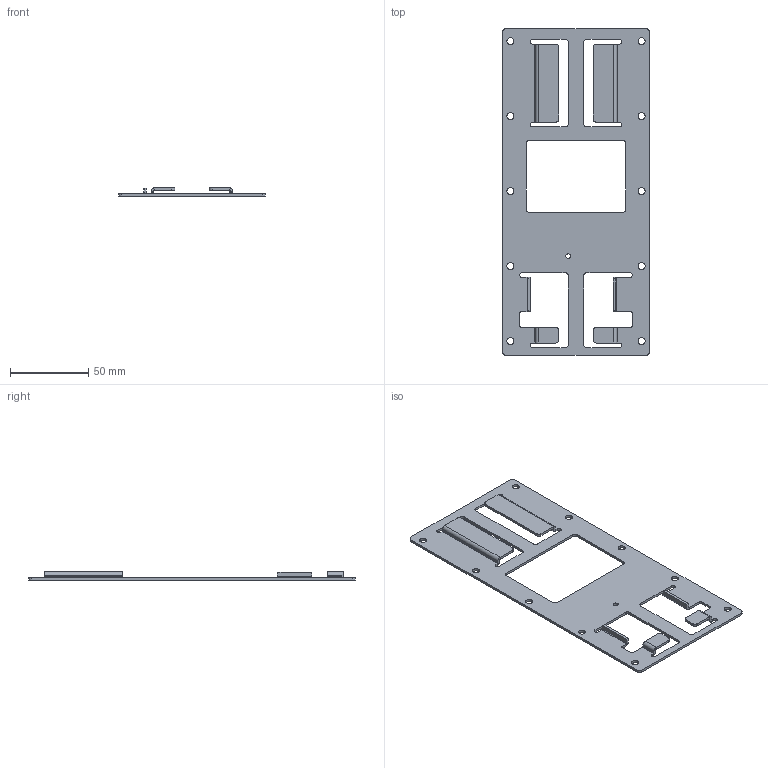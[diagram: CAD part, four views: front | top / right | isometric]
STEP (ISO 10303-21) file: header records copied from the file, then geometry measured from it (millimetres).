
FILE_DESCRIPTION((''),'2;1');
FILE_NAME('051_PLATE_R261V','2025-01-23T17:16:31',('0092109'),(''),'CREO PARAMETRIC BY PTC INC, 2022281','CREO PARAMETRIC BY PTC INC, 2022281','');
FILE_SCHEMA(('AUTOMOTIVE_DESIGN { 1 0 10303 214 1 1 1 1 }'));
Length unit declared in the file: millimetre
Products named in the file (1): 051_PLATE_R261V
Bounding box: 94 x 209 x 5.2 mm (x, y, z)
Volume: 22493.4 mm3; surface area: 30978.3 mm2
Topology: 1 solids, 1 shells, 208 faces, 518 edges, 312 vertices
Faces by surface type: plane 118, cylinder 82, cone 8
Entity records: 6333 total; most frequent: DIRECTION 1102, CARTESIAN_POINT 1052, ORIENTED_EDGE 1036, EDGE_CURVE 518, AXIS2_PLACEMENT_3D 380, VECTOR 342, LINE 342, VERTEX_POINT 312
